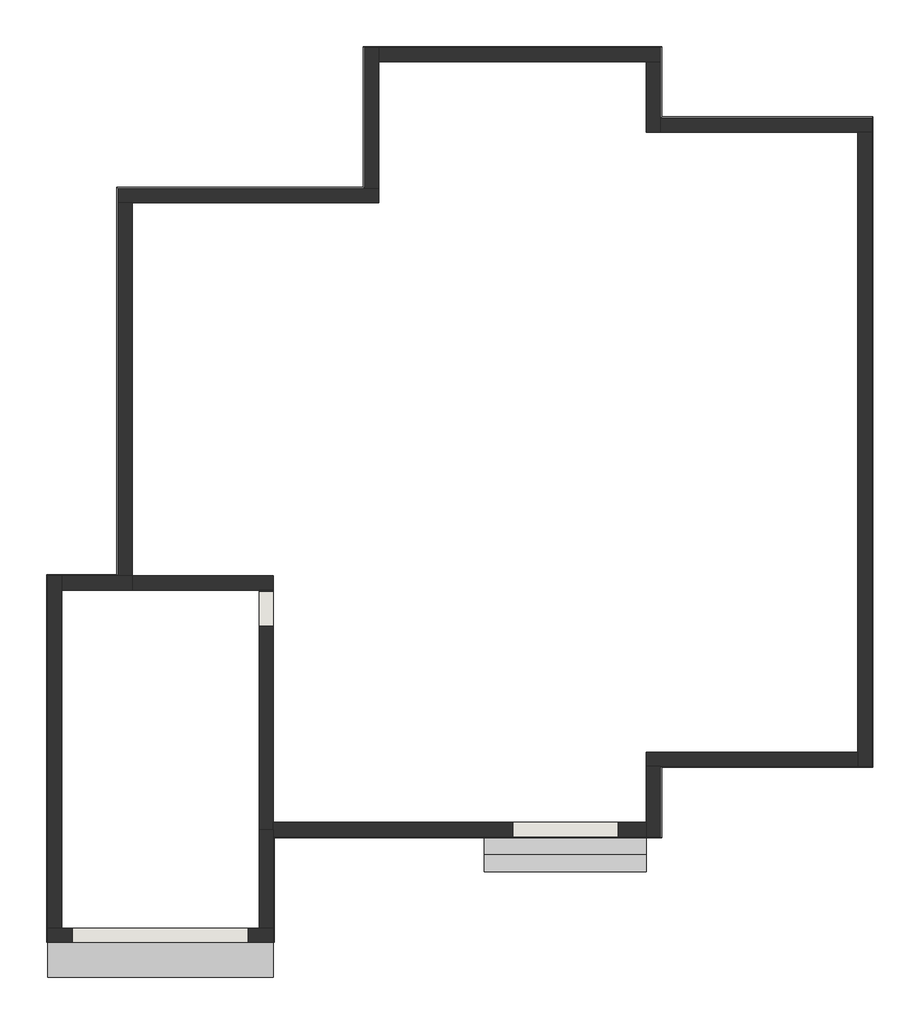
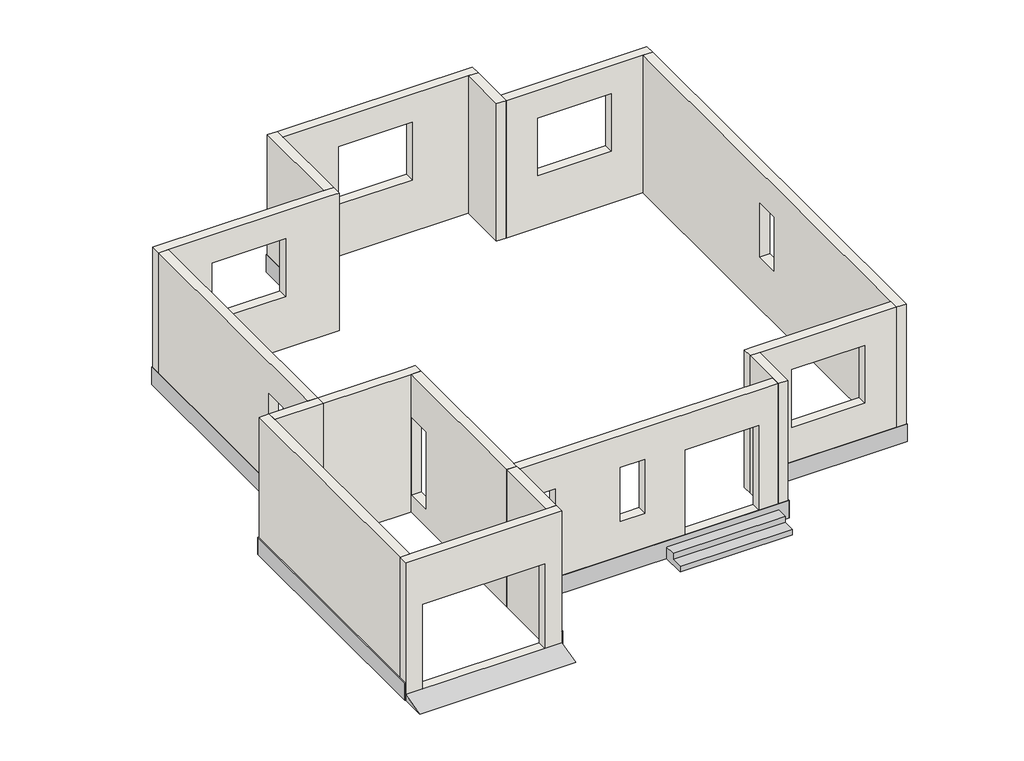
# One storey: 16 walls, 4 proxies.
"""IFC4 building model written with IfcOpenShell, lengths in millimetres."""

from ifc_helpers import new_model, si_unit, frame, origin, place, context, project, spatial, polyline, outline, extrude, faceted_brep, transform, mapped, element, save
from components import generic_models_deb05e92, generic_models_b37a2436

model = new_model("IFC4")

# Units and contexts
model_context = context("Model", 3, world=origin())
ifc_project = project(units=[si_unit("LENGTHUNIT", "METRE", prefix="MILLI")], contexts=[model_context])

# Site, building, storey
site = spatial("IfcSite", under=ifc_project)
building = spatial("IfcBuilding", under=site)
storey = spatial("IfcBuildingStorey", under=building, Name="室外地坪", Elevation=-450.0)

# Proxies
placement = place(None, origin())
element("IfcBuildingElementProxy", 1, Name="勒脚", ObjectType="勒脚", at=placement, inside=storey, context=model_context, shape_type="SweptSolid", body=[
    extrude(outline(polyline([(-48777.1400177, -14787.7106127), (-48797.1400177, -14767.7106127), (-44597.1400177, -14767.7106127), (-44577.1400177, -14787.7106127), (-48777.1400177, -14787.7106127)])), frame((0.0, 0.0, -450.0), z_axis=(0.0, 0.0, 1.0), x_axis=(1.0, 0.0, 0.0)), (0.0, 0.0, 1.0), 450.0),
    extrude(outline(polyline([(-48777.1400177, -21387.7106127), (-48797.1400177, -21367.7106127), (-48797.1400177, -14767.7106127), (-48777.1400177, -14787.7106127), (-48777.1400177, -21387.7106127)])), frame((0.0, 0.0, -450.0), z_axis=(0.0, 0.0, 1.0), x_axis=(1.0, 0.0, 0.0)), (0.0, 0.0, 1.0), 450.0),
])
element("IfcBuildingElementProxy", 2, Name="勒脚", ObjectType="勒脚", at=placement, inside=storey, context=model_context, shape_type="SweptSolid", body=[
    extrude(outline(polyline([(-44577.1400177, -14787.7106127), (-44597.1400177, -14767.7106127), (-44597.1400177, -12367.7106127), (-44577.1400177, -12387.7106127), (-44577.1400177, -14787.7106127)])), frame((0.0, 0.0, -450.0), z_axis=(0.0, 0.0, 1.0), x_axis=(1.0, 0.0, 0.0)), (0.0, 0.0, 1.0), 450.0),
    extrude(outline(polyline([(-44577.1400177, -12387.7106127), (-44597.1400177, -12367.7106127), (-39517.1400177, -12367.7106127), (-39537.1400177, -12387.7106127), (-44577.1400177, -12387.7106127)])), frame((0.0, 0.0, -450.0), z_axis=(0.0, 0.0, 1.0), x_axis=(1.0, 0.0, 0.0)), (0.0, 0.0, 1.0), 450.0),
    extrude(outline(polyline([(-39537.1400177, -12387.7106127), (-39517.1400177, -12367.7106127), (-39517.1400177, -13567.7106127), (-39537.1400177, -13587.7106127), (-39537.1400177, -12387.7106127)])), frame((0.0, 0.0, -450.0), z_axis=(0.0, 0.0, 1.0), x_axis=(1.0, 0.0, 0.0)), (0.0, 0.0, 1.0), 450.0),
    extrude(outline(polyline([(-39537.1400177, -13587.7106127), (-39517.1400177, -13567.7106127), (-35917.1400177, -13567.7106127), (-35937.1400177, -13587.7106127), (-39537.1400177, -13587.7106127)])), frame((0.0, 0.0, -450.0), z_axis=(0.0, 0.0, 1.0), x_axis=(1.0, 0.0, 0.0)), (0.0, 0.0, 1.0), 450.0),
    extrude(outline(polyline([(-35937.1400177, -13587.7106127), (-35917.1400177, -13567.7106127), (-35917.1400177, -24647.7106127), (-35937.1400177, -24627.7106127), (-35937.1400177, -13587.7106127)])), frame((0.0, 0.0, -450.0), z_axis=(0.0, 0.0, 1.0), x_axis=(1.0, 0.0, 0.0)), (0.0, 0.0, 1.0), 450.0),
    extrude(outline(polyline([(-35937.1400177, -24627.7106127), (-35917.1400177, -24647.7106127), (-39517.1400177, -24647.7106127), (-39537.1400177, -24627.7106127), (-35937.1400177, -24627.7106127)])), frame((0.0, 0.0, -450.0), z_axis=(0.0, 0.0, 1.0), x_axis=(1.0, 0.0, 0.0)), (0.0, 0.0, 1.0), 450.0),
    extrude(outline(polyline([(-39537.1400177, -24627.7106127), (-39517.1400177, -24647.7106127), (-39517.1400177, -25847.7106127), (-39537.1400177, -25827.7106127), (-39537.1400177, -24627.7106127)])), frame((0.0, 0.0, -450.0), z_axis=(0.0, 0.0, 1.0), x_axis=(1.0, 0.0, 0.0)), (0.0, 0.0, 1.0), 450.0),
    extrude(outline(polyline([(-39537.1400177, -25827.7106127), (-39517.1400177, -25847.7106127), (-46117.1400177, -25847.7106127), (-46137.1400177, -25827.7106127), (-39537.1400177, -25827.7106127)])), frame((0.0, 0.0, -450.0), z_axis=(0.0, 0.0, 1.0), x_axis=(1.0, 0.0, 0.0)), (0.0, 0.0, 1.0), 450.0),
    extrude(outline(polyline([(-46117.1400177, -27627.7106127), (-46137.1400177, -27627.7106127), (-46137.1400177, -25827.7106127), (-46117.1400177, -25847.7106127), (-46117.1400177, -27627.7106127)])), frame((0.0, 0.0, -450.0), z_axis=(0.0, 0.0, 1.0), x_axis=(1.0, 0.0, 0.0)), (0.0, 0.0, 1.0), 450.0),
    extrude(outline(polyline([(-49977.1400177, -27627.7106127), (-49997.1400177, -27627.7106127), (-49997.1400177, -21367.7106127), (-49977.1400177, -21387.7106127), (-49977.1400177, -27627.7106127)])), frame((0.0, 0.0, -450.0), z_axis=(0.0, 0.0, 1.0), x_axis=(1.0, 0.0, 0.0)), (0.0, 0.0, 1.0), 450.0),
    extrude(outline(polyline([(-49977.1400177, -21387.7106127), (-49997.1400177, -21367.7106127), (-48797.1400177, -21367.7106127), (-48777.1400177, -21387.7106127), (-49977.1400177, -21387.7106127)])), frame((0.0, 0.0, -450.0), z_axis=(0.0, 0.0, 1.0), x_axis=(1.0, 0.0, 0.0)), (0.0, 0.0, 1.0), 450.0),
])
generic_models_shape = generic_models_deb05e92(model_context)
element("IfcBuildingElementProxy", 3, Name="常规模型 2 : 常规模型 2", ObjectType="常规模型 2 : 常规模型 2", at=placement, inside=storey, context=model_context, shape_type="MappedRepresentation", body=[
    mapped(generic_models_shape, transform((0.0, 0.0, 0.0), x_axis=(1.0, 0.0, 0.0), y_axis=(0.0, 1.0, 0.0), z_axis=(0.0, 0.0, 1.0))),
])
generic_models_2_shape = generic_models_b37a2436(model_context)
element("IfcBuildingElementProxy", 4, Name="常规模型 3 : 常规模型 3", ObjectType="常规模型 3 : 常规模型 3", at=placement, inside=storey, context=model_context, shape_type="MappedRepresentation", body=[
    mapped(generic_models_2_shape, transform((0.0, 0.0, 0.0), x_axis=(1.0, 0.0, 0.0), y_axis=(0.0, 1.0, 0.0), z_axis=(0.0, 0.0, 1.0))),
])

# Walls
element("IfcWall", 5, ObjectType="外-240mm", at=placement, inside=storey, context=model_context, shape_type="Brep", body=[
    faceted_brep([(-48777.1400177, -15027.7106127, -450.0), (-48537.1400177, -15027.7106127, -450.0), (-44337.1400177, -15027.7106127, -450.0), (-44337.1400177, -15027.7106127, 0.0), (-44337.1400177, -15027.7106127, 3125.0), (-44577.1400177, -15027.7106127, 3125.0), (-48537.1400177, -15027.7106127, 3125.0), (-48777.1400177, -15027.7106127, 3125.0), (-48777.1400177, -15027.7106127, 0.0), (-45657.1400177, -15027.7106127, 2400.0), (-45657.1400177, -15027.7106127, 900.0), (-47457.1400177, -15027.7106127, 900.0), (-47457.1400177, -15027.7106127, 2400.0), (-48777.1400177, -14787.7106127, 3125.0), (-44577.1400177, -14787.7106127, 3125.0), (-44337.1400177, -14787.7106127, 3125.0), (-44337.1400177, -14787.7106127, -450.0), (-44577.1400177, -14787.7106127, -450.0), (-48777.1400177, -14787.7106127, -450.0), (-48777.1400177, -14787.7106127, 0.0), (-45657.1400177, -14787.7106127, 900.0), (-45657.1400177, -14787.7106127, 2400.0), (-47457.1400177, -14787.7106127, 2400.0), (-47457.1400177, -14787.7106127, 900.0)], [[[0, 1, 2, 3, 4, 5, 6, 7, 8], [9, 10, 11, 12]], [[13, 14, 15, 16, 17, 18, 19], [20, 21, 22, 23]], [[2, 1, 0, 18, 17, 16]], [[7, 6, 5, 4, 15, 14, 13]], [[7, 13, 19, 18, 0, 8]], [[2, 16, 15, 4, 3]], [[10, 9, 21, 20]], [[11, 10, 20, 23]], [[12, 11, 23, 22]], [[9, 12, 22, 21]]]),
])
element("IfcWall", 6, ObjectType="外-240mm", at=placement, inside=storey, context=model_context, shape_type="Brep", body=[
    faceted_brep([(-44337.1400177, -14787.7106127, -450.0), (-44337.1400177, -12627.7106127, -450.0), (-44337.1400177, -12387.7106127, -450.0), (-44337.1400177, -12387.7106127, 0.0), (-44337.1400177, -12387.7106127, 3125.0), (-44337.1400177, -12627.7106127, 3125.0), (-44337.1400177, -14787.7106127, 3125.0), (-44577.1400177, -12387.7106127, -450.0), (-44577.1400177, -14787.7106127, -450.0), (-44577.1400177, -14787.7106127, 0.0), (-44577.1400177, -14787.7106127, 3125.0), (-44577.1400177, -12387.7106127, 3125.0), (-44577.1400177, -12387.7106127, 0.0)], [[[0, 1, 2, 3, 4, 5, 6]], [[7, 8, 9, 10, 11, 12]], [[2, 1, 0, 8, 7]], [[6, 5, 4, 11, 10]], [[2, 7, 12, 11, 4, 3]], [[6, 10, 9, 8, 0]]]),
])
element("IfcWall", 7, ObjectType="外-240mm", at=placement, inside=storey, context=model_context, shape_type="Brep", body=[
    faceted_brep([(-44337.1400177, -12627.7106127, -450.0), (-39777.1400177, -12627.7106127, -450.0), (-39537.1400177, -12627.7106127, -450.0), (-39537.1400177, -12627.7106127, 0.0), (-39537.1400177, -12627.7106127, 3125.0), (-39777.1400177, -12627.7106127, 3125.0), (-44337.1400177, -12627.7106127, 3125.0), (-41157.1400177, -12627.7106127, 2400.0), (-41157.1400177, -12627.7106127, 900.0), (-42957.1400177, -12627.7106127, 900.0), (-42957.1400177, -12627.7106127, 2400.0), (-39537.1400177, -12387.7106127, -450.0), (-44337.1400177, -12387.7106127, -450.0), (-44337.1400177, -12387.7106127, 0.0), (-44337.1400177, -12387.7106127, 3125.0), (-39537.1400177, -12387.7106127, 3125.0), (-39537.1400177, -12387.7106127, 0.0), (-41157.1400177, -12387.7106127, 900.0), (-41157.1400177, -12387.7106127, 2400.0), (-42957.1400177, -12387.7106127, 2400.0), (-42957.1400177, -12387.7106127, 900.0)], [[[0, 1, 2, 3, 4, 5, 6], [7, 8, 9, 10]], [[11, 12, 13, 14, 15, 16], [17, 18, 19, 20]], [[2, 1, 0, 12, 11]], [[6, 5, 4, 15, 14]], [[0, 6, 14, 13, 12]], [[2, 11, 16, 15, 4, 3]], [[8, 7, 18, 17]], [[9, 8, 17, 20]], [[10, 9, 20, 19]], [[7, 10, 19, 18]]]),
])
element("IfcWall", 8, ObjectType="外-240mm", at=placement, inside=storey, context=model_context, shape_type="Brep", body=[
    faceted_brep([(-39777.1400177, -12627.7106127, -450.0), (-39777.1400177, -13827.7106127, -450.0), (-39777.1400177, -13827.7106127, 0.0), (-39777.1400177, -13827.7106127, 3125.0), (-39777.1400177, -12627.7106127, 3125.0), (-39537.1400177, -12627.7106127, 3125.0), (-39537.1400177, -13587.7106127, 3125.0), (-39537.1400177, -13827.7106127, 3125.0), (-39537.1400177, -13827.7106127, -450.0), (-39537.1400177, -13587.7106127, -450.0), (-39537.1400177, -12627.7106127, -450.0), (-39537.1400177, -12627.7106127, 0.0)], [[[0, 1, 2, 3, 4]], [[5, 6, 7, 8, 9, 10, 11]], [[1, 0, 10, 9, 8]], [[4, 3, 7, 6, 5]], [[0, 4, 5, 11, 10]], [[1, 8, 7, 3, 2]]]),
])
element("IfcWall", 9, ObjectType="外-240mm", at=placement, inside=storey, context=model_context, shape_type="Brep", body=[
    faceted_brep([(-39537.1400177, -13827.7106127, -450.0), (-36177.1400177, -13827.7106127, -450.0), (-35937.1400177, -13827.7106127, -450.0), (-35937.1400177, -13827.7106127, 0.0), (-35937.1400177, -13827.7106127, 3125.0), (-36177.1400177, -13827.7106127, 3125.0), (-39537.1400177, -13827.7106127, 3125.0), (-36957.1400177, -13827.7106127, 2400.0), (-36957.1400177, -13827.7106127, 900.0), (-38757.1400177, -13827.7106127, 900.0), (-38757.1400177, -13827.7106127, 2400.0), (-35937.1400177, -13587.7106127, -450.0), (-39537.1400177, -13587.7106127, -450.0), (-39537.1400177, -13587.7106127, 0.0), (-39537.1400177, -13587.7106127, 3125.0), (-35937.1400177, -13587.7106127, 3125.0), (-35937.1400177, -13587.7106127, 0.0), (-36957.1400177, -13587.7106127, 900.0), (-36957.1400177, -13587.7106127, 2400.0), (-38757.1400177, -13587.7106127, 2400.0), (-38757.1400177, -13587.7106127, 900.0)], [[[0, 1, 2, 3, 4, 5, 6], [7, 8, 9, 10]], [[11, 12, 13, 14, 15, 16], [17, 18, 19, 20]], [[2, 1, 0, 12, 11]], [[6, 5, 4, 15, 14]], [[2, 11, 16, 15, 4, 3]], [[6, 14, 13, 12, 0]], [[8, 7, 18, 17]], [[9, 8, 17, 20]], [[10, 9, 20, 19]], [[7, 10, 19, 18]]]),
])
element("IfcWall", 10, ObjectType="外-240mm", at=placement, inside=storey, context=model_context, shape_type="Brep", body=[
    faceted_brep([(-36177.1400177, -13827.7106127, -450.0), (-36177.1400177, -24387.7106127, -450.0), (-36177.1400177, -24627.7106127, -450.0), (-36177.1400177, -24627.7106127, 0.0), (-36177.1400177, -24627.7106127, 3125.0), (-36177.1400177, -24387.7106127, 3125.0), (-36177.1400177, -20427.7106127, 3125.0), (-36177.1400177, -20187.7106127, 3125.0), (-36177.1400177, -18027.7106127, 3125.0), (-36177.1400177, -17787.7106127, 3125.0), (-36177.1400177, -13827.7106127, 3125.0), (-36177.1400177, -19407.7106127, 2300.0), (-36177.1400177, -19407.7106127, 900.0), (-36177.1400177, -18807.7106127, 900.0), (-36177.1400177, -18807.7106127, 2300.0), (-35937.1400177, -24627.7106127, -450.0), (-35937.1400177, -13827.7106127, -450.0), (-35937.1400177, -13827.7106127, 0.0), (-35937.1400177, -13827.7106127, 3125.0), (-35937.1400177, -24627.7106127, 3125.0), (-35937.1400177, -24627.7106127, 0.0), (-35937.1400177, -19407.7106127, 900.0), (-35937.1400177, -19407.7106127, 2300.0), (-35937.1400177, -18807.7106127, 2300.0), (-35937.1400177, -18807.7106127, 900.0)], [[[0, 1, 2, 3, 4, 5, 6, 7, 8, 9, 10], [11, 12, 13, 14]], [[15, 16, 17, 18, 19, 20], [21, 22, 23, 24]], [[2, 1, 0, 16, 15]], [[10, 9, 8, 7, 6, 5, 4, 19, 18]], [[0, 10, 18, 17, 16]], [[2, 15, 20, 19, 4, 3]], [[12, 11, 22, 21]], [[13, 12, 21, 24]], [[14, 13, 24, 23]], [[11, 14, 23, 22]]]),
])
element("IfcWall", 11, ObjectType="外-240mm", at=placement, inside=storey, context=model_context, shape_type="Brep", body=[
    faceted_brep([(-36177.1400177, -24387.7106127, -450.0), (-39777.1400177, -24387.7106127, -450.0), (-39777.1400177, -24387.7106127, 0.0), (-39777.1400177, -24387.7106127, 3125.0), (-39537.1400177, -24387.7106127, 3125.0), (-36177.1400177, -24387.7106127, 3125.0), (-38757.1400177, -24387.7106127, 2400.0), (-38757.1400177, -24387.7106127, 900.0), (-36957.1400177, -24387.7106127, 900.0), (-36957.1400177, -24387.7106127, 2400.0), (-36177.1400177, -24627.7106127, 3125.0), (-39537.1400177, -24627.7106127, 3125.0), (-39777.1400177, -24627.7106127, 3125.0), (-39777.1400177, -24627.7106127, -450.0), (-39537.1400177, -24627.7106127, -450.0), (-36177.1400177, -24627.7106127, -450.0), (-36177.1400177, -24627.7106127, 0.0), (-38757.1400177, -24627.7106127, 900.0), (-38757.1400177, -24627.7106127, 2400.0), (-36957.1400177, -24627.7106127, 2400.0), (-36957.1400177, -24627.7106127, 900.0)], [[[0, 1, 2, 3, 4, 5], [6, 7, 8, 9]], [[10, 11, 12, 13, 14, 15, 16], [17, 18, 19, 20]], [[1, 0, 15, 14, 13]], [[5, 4, 3, 12, 11, 10]], [[0, 5, 10, 16, 15]], [[1, 13, 12, 3, 2]], [[7, 6, 18, 17]], [[8, 7, 17, 20]], [[9, 8, 20, 19]], [[6, 9, 19, 18]]]),
])
element("IfcWall", 12, ObjectType="外-240mm", at=placement, inside=storey, context=model_context, shape_type="Brep", body=[
    faceted_brep([(-39777.1400177, -24627.7106127, -450.0), (-39777.1400177, -25587.7106127, -450.0), (-39777.1400177, -25827.7106127, -450.0), (-39777.1400177, -25827.7106127, 0.0), (-39777.1400177, -25827.7106127, 3125.0), (-39777.1400177, -25587.7106127, 3125.0), (-39777.1400177, -24627.7106127, 3125.0), (-39537.1400177, -25827.7106127, -450.0), (-39537.1400177, -24627.7106127, -450.0), (-39537.1400177, -24627.7106127, 0.0), (-39537.1400177, -24627.7106127, 3125.0), (-39537.1400177, -25827.7106127, 3125.0), (-39537.1400177, -25827.7106127, 0.0)], [[[0, 1, 2, 3, 4, 5, 6]], [[7, 8, 9, 10, 11, 12]], [[2, 1, 0, 8, 7]], [[6, 5, 4, 11, 10]], [[2, 7, 12, 11, 4, 3]], [[6, 10, 9, 8, 0]]]),
])
element("IfcWall", 13, ObjectType="外-240mm", at=placement, inside=storey, context=model_context, shape_type="Brep", body=[
    faceted_brep([(-39777.1400177, -25587.7106127, -450.0), (-46137.1400177, -25587.7106127, -450.0), (-46137.1400177, -25587.7106127, 3125.0), (-39777.1400177, -25587.7106127, 3125.0), (-40257.1400177, -25587.7106127, 0.0), (-40257.1400177, -25587.7106127, 2200.0), (-42057.1400177, -25587.7106127, 2200.0), (-42057.1400177, -25587.7106127, 0.0), (-45857.1400177, -25587.7106127, 2300.0), (-45857.1400177, -25587.7106127, 900.0), (-45257.1400177, -25587.7106127, 900.0), (-45257.1400177, -25587.7106127, 2300.0), (-43057.1400177, -25587.7106127, 900.0), (-43057.1400177, -25587.7106127, 2300.0), (-43657.1400177, -25587.7106127, 2300.0), (-43657.1400177, -25587.7106127, 900.0), (-46137.1400177, -25827.7106127, -450.0), (-39777.1400177, -25827.7106127, -450.0), (-39777.1400177, -25827.7106127, 0.0), (-39777.1400177, -25827.7106127, 3125.0), (-46137.1400177, -25827.7106127, 3125.0), (-46137.1400177, -25827.7106127, 0.0), (-40257.1400177, -25827.7106127, 2200.0), (-40257.1400177, -25827.7106127, 0.0), (-42057.1400177, -25827.7106127, 0.0), (-42057.1400177, -25827.7106127, 2200.0), (-45857.1400177, -25827.7106127, 900.0), (-45857.1400177, -25827.7106127, 2300.0), (-45257.1400177, -25827.7106127, 2300.0), (-45257.1400177, -25827.7106127, 900.0), (-43057.1400177, -25827.7106127, 2300.0), (-43057.1400177, -25827.7106127, 900.0), (-43657.1400177, -25827.7106127, 900.0), (-43657.1400177, -25827.7106127, 2300.0), (-46137.1400177, -25707.7106127, -450.0), (-46137.1400177, -25707.7106127, 3125.0)], [[[0, 1, 2, 3], [4, 5, 6, 7], [8, 9, 10, 11], [12, 13, 14, 15]], [[16, 17, 18, 19, 20, 21], [22, 23, 24, 25], [26, 27, 28, 29], [30, 31, 32, 33]], [[1, 0, 17, 16, 34]], [[3, 2, 35, 20, 19]], [[0, 3, 19, 18, 17]], [[2, 1, 34, 16, 21, 20, 35]], [[5, 4, 23, 22]], [[6, 5, 22, 25]], [[7, 6, 25, 24]], [[4, 7, 24, 23]], [[9, 8, 27, 26]], [[10, 9, 26, 29]], [[11, 10, 29, 28]], [[8, 11, 28, 27]], [[31, 30, 13, 12]], [[32, 31, 12, 15]], [[33, 32, 15, 14]], [[30, 33, 14, 13]]]),
])
element("IfcWall", 14, ObjectType="外-240mm", at=placement, inside=storey, context=model_context, shape_type="Brep", body=[
    faceted_brep([(-46137.1400177, -27387.7106127, -450.0), (-46377.1400177, -27387.7106127, -450.0), (-49737.1400177, -27387.7106127, -450.0), (-49977.1400177, -27387.7106127, -450.0), (-49977.1400177, -27387.7106127, 0.0), (-49977.1400177, -27387.7106127, 3125.0), (-49737.1400177, -27387.7106127, 3125.0), (-46377.1400177, -27387.7106127, 3125.0), (-46137.1400177, -27387.7106127, 3125.0), (-46137.1400177, -27387.7106127, 0.0), (-46557.1400177, -27387.7106127, -300.0), (-46557.1400177, -27387.7106127, 1900.0), (-49557.1400177, -27387.7106127, 1900.0), (-49557.1400177, -27387.7106127, -300.0), (-49977.1400177, -27627.7106127, -450.0), (-46137.1400177, -27627.7106127, -450.0), (-46137.1400177, -27627.7106127, 0.0), (-46137.1400177, -27627.7106127, 3125.0), (-49977.1400177, -27627.7106127, 3125.0), (-49977.1400177, -27627.7106127, 0.0), (-46557.1400177, -27627.7106127, 1900.0), (-46557.1400177, -27627.7106127, -300.0), (-49557.1400177, -27627.7106127, -300.0), (-49557.1400177, -27627.7106127, 1900.0)], [[[0, 1, 2, 3, 4, 5, 6, 7, 8, 9], [10, 11, 12, 13]], [[14, 15, 16, 17, 18, 19], [20, 21, 22, 23]], [[3, 2, 1, 0, 15, 14]], [[8, 7, 6, 5, 18, 17]], [[3, 14, 19, 18, 5, 4]], [[8, 17, 16, 15, 0, 9]], [[11, 10, 21, 20]], [[12, 11, 20, 23]], [[13, 12, 23, 22]], [[10, 13, 22, 21]]]),
])
element("IfcWall", 15, ObjectType="外-240mm", at=placement, inside=storey, context=model_context, shape_type="Brep", body=[
    faceted_brep([(-49737.1400177, -27387.7106127, -450.0), (-49737.1400177, -21627.7106127, -450.0), (-49737.1400177, -21387.7106127, -450.0), (-49737.1400177, -21387.7106127, 0.0), (-49737.1400177, -21387.7106127, 3125.0), (-49737.1400177, -21627.7106127, 3125.0), (-49737.1400177, -27387.7106127, 3125.0), (-49977.1400177, -21387.7106127, -450.0), (-49977.1400177, -27387.7106127, -450.0), (-49977.1400177, -27387.7106127, 0.0), (-49977.1400177, -27387.7106127, 3125.0), (-49977.1400177, -21387.7106127, 3125.0), (-49977.1400177, -21387.7106127, 0.0)], [[[0, 1, 2, 3, 4, 5, 6]], [[7, 8, 9, 10, 11, 12]], [[2, 1, 0, 8, 7]], [[6, 5, 4, 11, 10]], [[0, 6, 10, 9, 8]], [[2, 7, 12, 11, 4, 3]]]),
])
element("IfcWall", 16, ObjectType="外-240mm", at=placement, inside=storey, context=model_context, shape_type="Brep", body=[
    faceted_brep([(-49737.1400177, -21627.7106127, -450.0), (-48537.1400177, -21627.7106127, -450.0), (-48537.1400177, -21627.7106127, 3125.0), (-49737.1400177, -21627.7106127, 3125.0), (-49737.1400177, -21387.7106127, 3125.0), (-48777.1400177, -21387.7106127, 3125.0), (-48537.1400177, -21387.7106127, 3125.0), (-48537.1400177, -21387.7106127, -450.0), (-48777.1400177, -21387.7106127, -450.0), (-49737.1400177, -21387.7106127, -450.0), (-49737.1400177, -21387.7106127, 0.0)], [[[0, 1, 2, 3]], [[4, 5, 6, 7, 8, 9, 10]], [[1, 0, 9, 8, 7]], [[3, 2, 6, 5, 4]], [[0, 3, 4, 10, 9]], [[2, 1, 7, 6]]]),
])
element("IfcWall", 17, ObjectType="外-240mm", at=placement, inside=storey, context=model_context, shape_type="Brep", body=[
    faceted_brep([(-48537.1400177, -21387.7106127, -450.0), (-48537.1400177, -15027.7106127, -450.0), (-48537.1400177, -15027.7106127, 3125.0), (-48537.1400177, -21387.7106127, 3125.0), (-48537.1400177, -19707.7106127, 2300.0), (-48537.1400177, -19707.7106127, 900.0), (-48537.1400177, -20307.7106127, 900.0), (-48537.1400177, -20307.7106127, 2300.0), (-48777.1400177, -15027.7106127, -450.0), (-48777.1400177, -21387.7106127, -450.0), (-48777.1400177, -21387.7106127, 0.0), (-48777.1400177, -21387.7106127, 3125.0), (-48777.1400177, -15027.7106127, 3125.0), (-48777.1400177, -15027.7106127, 0.0), (-48777.1400177, -19707.7106127, 900.0), (-48777.1400177, -19707.7106127, 2300.0), (-48777.1400177, -20307.7106127, 2300.0), (-48777.1400177, -20307.7106127, 900.0)], [[[0, 1, 2, 3], [4, 5, 6, 7]], [[8, 9, 10, 11, 12, 13], [14, 15, 16, 17]], [[1, 0, 9, 8]], [[3, 2, 12, 11]], [[2, 1, 8, 13, 12]], [[0, 3, 11, 10, 9]], [[5, 4, 15, 14]], [[6, 5, 14, 17]], [[7, 6, 17, 16]], [[4, 7, 16, 15]]]),
])
element("IfcWall", 18, ObjectType="外-240mm", at=placement, inside=storey, context=model_context, shape_type="Brep", body=[
    faceted_brep([(-46137.1400177, -21387.7106127, 3125.0), (-46137.1400177, -21387.7106127, 2975.0), (-46137.1400177, -21387.7106127, 0.0), (-46137.1400177, -21387.7106127, -450.0), (-48537.1400177, -21387.7106127, -450.0), (-48537.1400177, -21387.7106127, 3125.0), (-46377.1400177, -21387.7106127, 3125.0), (-46137.1400177, -21627.7106127, -450.0), (-46137.1400177, -21627.7106127, 3125.0), (-46377.1400177, -21627.7106127, 3125.0), (-48537.1400177, -21627.7106127, 3125.0), (-48537.1400177, -21627.7106127, -450.0), (-46377.1400177, -21627.7106127, -450.0)], [[[0, 1, 2, 3, 4, 5, 6]], [[7, 8, 9, 10, 11, 12]], [[4, 3, 7, 12, 11]], [[0, 6, 5, 10, 9, 8]], [[5, 4, 11, 10]], [[0, 8, 7, 3, 2, 1]]]),
])
element("IfcWall", 19, ObjectType="外-240mm", at=placement, inside=storey, context=model_context, shape_type="Brep", body=[
    faceted_brep([(-46137.1400177, -27387.7106127, -450.0), (-46137.1400177, -25827.7106127, -450.0), (-46137.1400177, -25707.7106127, -450.0), (-46137.1400177, -25707.7106127, 3125.0), (-46137.1400177, -25827.7106127, 3125.0), (-46137.1400177, -27387.7106127, 3125.0), (-46377.1400177, -27387.7106127, -450.0), (-46377.1400177, -27387.7106127, 3125.0), (-46377.1400177, -25707.7106127, 3125.0), (-46377.1400177, -25707.7106127, -450.0)], [[[0, 1, 2, 3, 4, 5]], [[6, 7, 8, 9]], [[2, 1, 0, 6, 9]], [[3, 2, 9, 8]], [[5, 4, 3, 8, 7]], [[0, 5, 7, 6]]]),
])
element("IfcWall", 20, ObjectType="外-240mm", at=placement, inside=storey, context=model_context, shape_type="Brep", body=[
    faceted_brep([(-46137.1400177, -25707.7106127, -450.0), (-46137.1400177, -25587.7106127, -450.0), (-46137.1400177, -21627.7106127, -450.0), (-46137.1400177, -21627.7106127, 3125.0), (-46137.1400177, -25587.7106127, 3125.0), (-46137.1400177, -25707.7106127, 3125.0), (-46137.1400177, -21647.7106127, 0.0), (-46137.1400177, -22247.7106127, 0.0), (-46137.1400177, -22247.7106127, 2000.0), (-46137.1400177, -21647.7106127, 2000.0), (-46377.1400177, -25707.7106127, -450.0), (-46377.1400177, -25707.7106127, 3125.0), (-46377.1400177, -21627.7106127, 3125.0), (-46377.1400177, -21627.7106127, -450.0), (-46377.1400177, -21647.7106127, 0.0), (-46377.1400177, -21647.7106127, 2000.0), (-46377.1400177, -22247.7106127, 2000.0), (-46377.1400177, -22247.7106127, 0.0)], [[[0, 1, 2, 3, 4, 5], [6, 7, 8, 9]], [[10, 11, 12, 13], [14, 15, 16, 17]], [[2, 1, 0, 10, 13]], [[5, 4, 3, 12, 11]], [[0, 5, 11, 10]], [[2, 13, 12, 3]], [[15, 14, 6, 9]], [[16, 15, 9, 8]], [[17, 16, 8, 7]], [[14, 17, 7, 6]]]),
])

save(model, "model.ifc")
